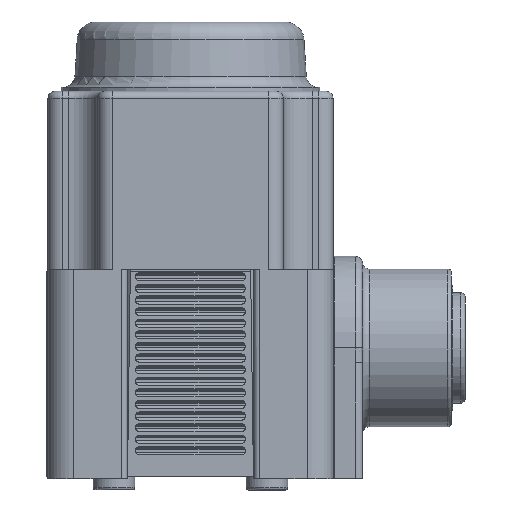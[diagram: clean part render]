
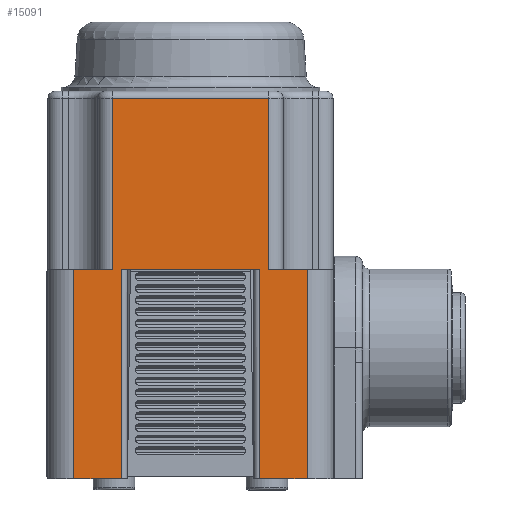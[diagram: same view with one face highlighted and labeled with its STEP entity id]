
A CAD part, left-side view. The second image highlights one B-rep face of the part: STEP entity #15091.
In plain terms, the highlighted planar face has unit normal (-1, 0, 0).
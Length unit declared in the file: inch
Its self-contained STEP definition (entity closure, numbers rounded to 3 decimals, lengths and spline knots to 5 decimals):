
#886=PLANE('',#16637);
#1681=FACE_OUTER_BOUND('',#2594,.T.);
#2594=EDGE_LOOP('',(#13038,#13039,#13040,#13041,#13042,#13043,#13044,#13045,
#13046,#13047,#13048,#13049));
#4324=LINE('',#27321,#5314);
#4337=LINE('',#27391,#5327);
#4453=LINE('',#28964,#5443);
#4470=LINE('',#29023,#5460);
#4471=LINE('',#29027,#5461);
#4474=LINE('',#29046,#5464);
#4487=LINE('',#29122,#5477);
#4488=LINE('',#29126,#5478);
#4489=LINE('',#29127,#5479);
#4490=LINE('',#29129,#5480);
#4491=LINE('',#29131,#5481);
#4492=LINE('',#29132,#5482);
#5314=VECTOR('',#20064,0.3937);
#5327=VECTOR('',#20147,0.3937);
#5443=VECTOR('',#20457,0.3937);
#5460=VECTOR('',#20528,0.3937);
#5461=VECTOR('',#20533,0.3937);
#5464=VECTOR('',#20554,0.3937);
#5477=VECTOR('',#20655,0.3937);
#5478=VECTOR('',#20660,0.3937);
#5479=VECTOR('',#20661,0.3937);
#5480=VECTOR('',#20662,0.3937);
#5481=VECTOR('',#20663,0.3937);
#5482=VECTOR('',#20664,0.3937);
#6672=VERTEX_POINT('',#27313);
#6674=VERTEX_POINT('',#27319);
#6696=VERTEX_POINT('',#27389);
#6826=VERTEX_POINT('',#28961);
#6827=VERTEX_POINT('',#28963);
#6842=VERTEX_POINT('',#29022);
#6843=VERTEX_POINT('',#29026);
#6850=VERTEX_POINT('',#29044);
#6869=VERTEX_POINT('',#29121);
#6870=VERTEX_POINT('',#29125);
#6871=VERTEX_POINT('',#29128);
#6872=VERTEX_POINT('',#29130);
#8644=EDGE_CURVE('',#6674,#6672,#4324,.T.);
#8680=EDGE_CURVE('',#6696,#6674,#4337,.T.);
#8882=EDGE_CURVE('',#6827,#6826,#4453,.T.);
#8911=EDGE_CURVE('',#6842,#6672,#4470,.T.);
#8913=EDGE_CURVE('',#6843,#6842,#4471,.T.);
#8923=EDGE_CURVE('',#6696,#6850,#4474,.T.);
#8961=EDGE_CURVE('',#6869,#6827,#4487,.T.);
#8963=EDGE_CURVE('',#6870,#6850,#4488,.T.);
#8964=EDGE_CURVE('',#6869,#6870,#4489,.T.);
#8965=EDGE_CURVE('',#6871,#6826,#4490,.T.);
#8966=EDGE_CURVE('',#6871,#6872,#4491,.T.);
#8967=EDGE_CURVE('',#6872,#6843,#4492,.T.);
#13038=ORIENTED_EDGE('',*,*,#8644,.F.);
#13039=ORIENTED_EDGE('',*,*,#8680,.F.);
#13040=ORIENTED_EDGE('',*,*,#8923,.T.);
#13041=ORIENTED_EDGE('',*,*,#8963,.F.);
#13042=ORIENTED_EDGE('',*,*,#8964,.F.);
#13043=ORIENTED_EDGE('',*,*,#8961,.T.);
#13044=ORIENTED_EDGE('',*,*,#8882,.T.);
#13045=ORIENTED_EDGE('',*,*,#8965,.F.);
#13046=ORIENTED_EDGE('',*,*,#8966,.T.);
#13047=ORIENTED_EDGE('',*,*,#8967,.T.);
#13048=ORIENTED_EDGE('',*,*,#8913,.T.);
#13049=ORIENTED_EDGE('',*,*,#8911,.T.);
#15091=ADVANCED_FACE('',(#1681),#886,.T.);
#16637=AXIS2_PLACEMENT_3D('',#29124,#20658,#20659);
#20064=DIRECTION('',(0.,-1.,0.));
#20147=DIRECTION('',(0.,0.,1.));
#20457=DIRECTION('',(0.,-1.,0.));
#20528=DIRECTION('',(0.,0.,1.));
#20533=DIRECTION('',(0.,1.,0.));
#20554=DIRECTION('',(0.,1.,0.));
#20655=DIRECTION('',(0.,0.,1.));
#20658=DIRECTION('center_axis',(-1.,0.,0.));
#20659=DIRECTION('ref_axis',(0.,0.,1.));
#20660=DIRECTION('',(0.,0.,1.));
#20661=DIRECTION('',(0.,1.,0.));
#20662=DIRECTION('',(0.,0.,1.));
#20663=DIRECTION('',(0.,-1.,0.));
#20664=DIRECTION('',(0.,0.,1.));
#27313=CARTESIAN_POINT('',(-1.04,-0.33276,0.6733));
#27319=CARTESIAN_POINT('',(-1.04,0.33524,0.6733));
#27321=CARTESIAN_POINT('',(-1.04,0.33524,0.6733));
#27389=CARTESIAN_POINT('',(-1.04,0.33524,-0.0587));
#27391=CARTESIAN_POINT('',(-1.04,0.33524,-0.0587));
#28961=CARTESIAN_POINT('',(-1.04,-0.29276,-0.0587));
#28963=CARTESIAN_POINT('',(-1.04,0.29524,-0.0587));
#28964=CARTESIAN_POINT('',(-1.04,0.29524,-0.0587));
#29022=CARTESIAN_POINT('',(-1.04,-0.33276,-0.0587));
#29023=CARTESIAN_POINT('',(-1.04,-0.33276,-0.0587));
#29026=CARTESIAN_POINT('',(-1.04,-0.49776,-0.0587));
#29027=CARTESIAN_POINT('',(-1.04,-0.49776,-0.0587));
#29044=CARTESIAN_POINT('',(-1.04,0.50024,-0.0587));
#29046=CARTESIAN_POINT('',(-1.04,0.33524,-0.0587));
#29121=CARTESIAN_POINT('',(-1.04,0.29524,-0.9527));
#29122=CARTESIAN_POINT('',(-1.04,0.29524,-0.9527));
#29124=CARTESIAN_POINT('Origin',(-1.04,-0.49816,-0.1397));
#29125=CARTESIAN_POINT('',(-1.04,0.50024,-0.9527));
#29126=CARTESIAN_POINT('',(-1.04,0.50024,-0.9527));
#29127=CARTESIAN_POINT('',(-1.04,0.29524,-0.9527));
#29128=CARTESIAN_POINT('',(-1.04,-0.29276,-0.9527));
#29129=CARTESIAN_POINT('',(-1.04,-0.29276,-0.9527));
#29130=CARTESIAN_POINT('',(-1.04,-0.49776,-0.9527));
#29131=CARTESIAN_POINT('',(-1.04,-0.29276,-0.9527));
#29132=CARTESIAN_POINT('',(-1.04,-0.49776,-0.9527));
